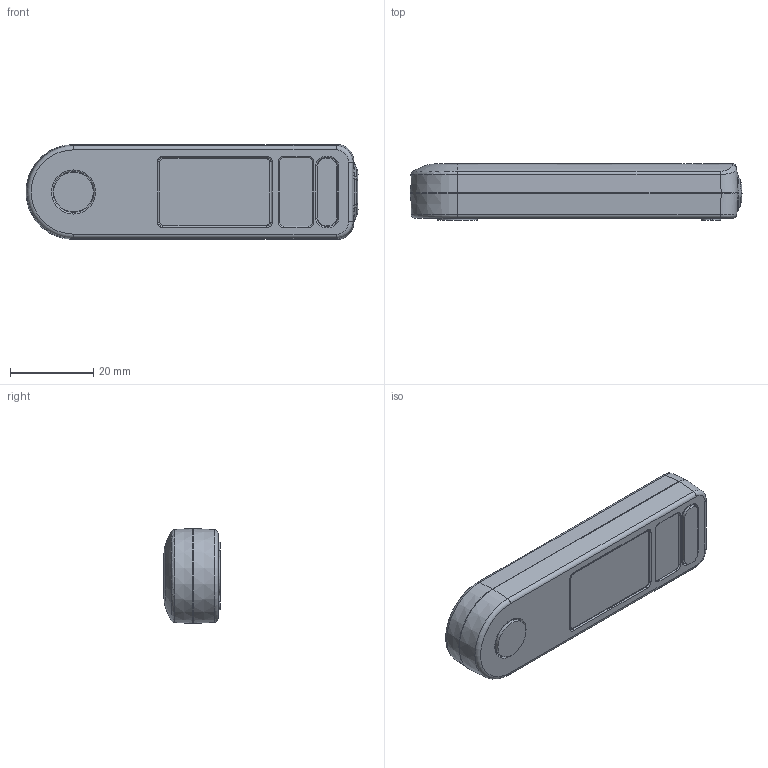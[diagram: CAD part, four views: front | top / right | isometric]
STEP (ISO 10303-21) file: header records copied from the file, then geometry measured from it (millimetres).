
FILE_DESCRIPTION (( 'STEP AP214' ), '1' );
FILE_NAME ('8252010-DSM - X2 RF Sensor - external geometry - 4.08.STEP', '2024-12-10T15:20:37', ( '' ), ( '' ), 'SwSTEP 2.0', 'SolidWorks 2024', '' );
FILE_SCHEMA (( 'AUTOMOTIVE_DESIGN' ));
Length unit declared in the file: millimetre
Products named in the file (11): 3050139-SLD - Enclosure Bottom print; 3050078-SLD - Bumpon Tip; 3100048-SLD - Stack Adhesive Pad; 8252010-DSM - X2 RF Sensor - external geometry - 4.08; 3000090-SLD - Enclosure top_RF Print; 4750085-SLD - Main Board; 3901052-SLD - Enclosure top RF; 3080044-SLD - X-Ray Protection Lower; 3050077-SLD - Bumpon Base; 5600186-SLD - ID Label; 4750085.P101-SLD - Micro USB Connector
Assembly tree (10 placements, depth 3):
  8252010-DSM - X2 RF Sensor - external geometry - 4.08
    3901052-SLD - Enclosure top RF
      3000090-SLD - Enclosure top_RF Print
    4750085-SLD - Main Board
      4750085.P101-SLD - Micro USB Connector
    3080044-SLD - X-Ray Protection Lower
    3050139-SLD - Enclosure Bottom print
    3050078-SLD - Bumpon Tip
    3050077-SLD - Bumpon Base
    5600186-SLD - ID Label
    3100048-SLD - Stack Adhesive Pad
Bounding box: 79.78 x 13.6 x 22.8 mm (x, y, z)
Volume: 7660.1 mm3; surface area: 15417.6 mm2
Topology: 8 solids, 8 shells, 1052 faces, 2936 edges, 1893 vertices
Faces by surface type: plane 604, cylinder 253, bspline 111, cone 54, torus 26, sphere 4
Full cylindrical faces by diameter (mm): 1.9 x2, 9.5 x1
Entity records: 38080 total; most frequent: CARTESIAN_POINT 12016, ORIENTED_EDGE 5790, DIRECTION 4859, EDGE_CURVE 2895, VERTEX_POINT 1880, LINE 1781, VECTOR 1781, AXIS2_PLACEMENT_3D 1539
